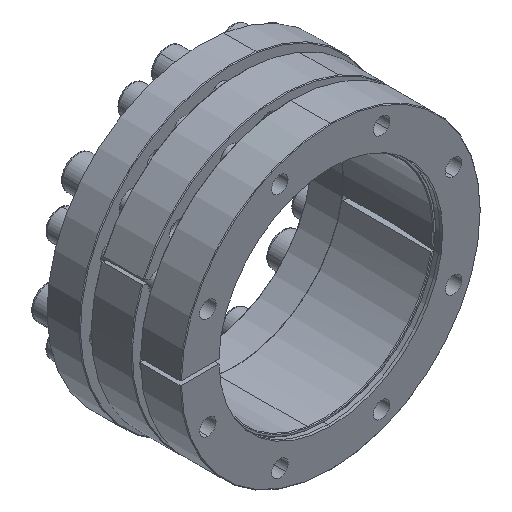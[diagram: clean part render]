
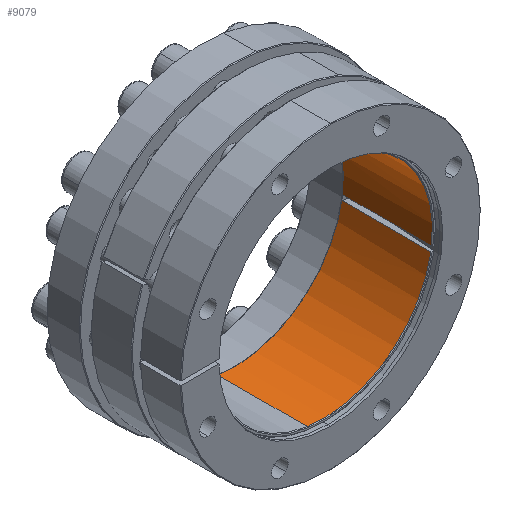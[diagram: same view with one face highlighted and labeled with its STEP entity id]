
A CAD part, isometric view. The second image highlights one B-rep face of the part: STEP entity #9079.
In plain terms, the highlighted cylindrical face has radius 80 mm (diameter 160 mm), a partial arc.
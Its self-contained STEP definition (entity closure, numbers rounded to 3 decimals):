
#144 = CARTESIAN_POINT ( 'NONE',  ( 0., 5.503, 0. ) ) ;
#605 = EDGE_CURVE ( 'NONE', #8285, #2930, #20801, .T. ) ;
#1186 = ORIENTED_EDGE ( 'NONE', *, *, #22672, .F. ) ;
#1310 = DIRECTION ( 'NONE',  ( 0.148, 0., 0.989 ) ) ;
#1899 = ORIENTED_EDGE ( 'NONE', *, *, #15524, .T. ) ;
#1987 = VERTEX_POINT ( 'NONE', #17245 ) ;
#2238 = DIRECTION ( 'NONE',  ( 0.148, 0., 0.989 ) ) ;
#2494 = LINE ( 'NONE', #26358, #18696 ) ;
#2620 = DIRECTION ( 'NONE',  ( 0., -1., 0. ) ) ;
#2930 = VERTEX_POINT ( 'NONE', #8291 ) ;
#3080 = AXIS2_PLACEMENT_3D ( 'NONE', #26692, #13955, #1310 ) ;
#3229 = ORIENTED_EDGE ( 'NONE', *, *, #11173, .T. ) ;
#4216 = DIRECTION ( 'NONE',  ( -0.148, 0., -0.989 ) ) ;
#4299 = ORIENTED_EDGE ( 'NONE', *, *, #6322, .T. ) ;
#5131 = CARTESIAN_POINT ( 'NONE',  ( 0., 70.503, 0. ) ) ;
#6322 = EDGE_CURVE ( 'NONE', #22903, #8546, #2494, .T. ) ;
#6748 = EDGE_CURVE ( 'NONE', #8546, #1987, #15047, .T. ) ;
#7242 = DIRECTION ( 'NONE',  ( 0.148, 0., 0.989 ) ) ;
#7535 = ORIENTED_EDGE ( 'NONE', *, *, #6748, .T. ) ;
#7960 = VERTEX_POINT ( 'NONE', #8156 ) ;
#8156 = CARTESIAN_POINT ( 'NONE',  ( 78.844, 70.503, -13.553 ) ) ;
#8285 = VERTEX_POINT ( 'NONE', #24273 ) ;
#8291 = CARTESIAN_POINT ( 'NONE',  ( -11.825, 5.503, -79.121 ) ) ;
#8546 = VERTEX_POINT ( 'NONE', #19059 ) ;
#8856 = VECTOR ( 'NONE', #25746, 1000. ) ;
#9079 = ADVANCED_FACE ( 'NONE', ( #22536 ), #14905, .F. ) ;
#9711 = EDGE_CURVE ( 'NONE', #14993, #7960, #25083, .T. ) ;
#9844 = CARTESIAN_POINT ( 'NONE',  ( -11.825, 5.003, -79.121 ) ) ;
#9968 = AXIS2_PLACEMENT_3D ( 'NONE', #10692, #25504, #12787 ) ;
#10062 = LINE ( 'NONE', #15310, #21346 ) ;
#10160 = AXIS2_PLACEMENT_3D ( 'NONE', #16882, #23182, #4216 ) ;
#10355 = ORIENTED_EDGE ( 'NONE', *, *, #18923, .F. ) ;
#10692 = CARTESIAN_POINT ( 'NONE',  ( 0., 71.003, 0. ) ) ;
#11173 = EDGE_CURVE ( 'NONE', #2930, #14993, #26190, .T. ) ;
#11811 = DIRECTION ( 'NONE',  ( 0., -1., 0. ) ) ;
#12787 = DIRECTION ( 'NONE',  ( -0.148, 0., -0.989 ) ) ;
#13256 = EDGE_LOOP ( 'NONE', ( #1186, #10355, #24986, #3229, #24563, #1899, #4299, #7535 ) ) ;
#13955 = DIRECTION ( 'NONE',  ( 0., -1., 0. ) ) ;
#14901 = DIRECTION ( 'NONE',  ( 0., -1., 0. ) ) ;
#14905 = CYLINDRICAL_SURFACE ( 'NONE', #10160, 80. ) ;
#14993 = VERTEX_POINT ( 'NONE', #26688 ) ;
#15047 = CIRCLE ( 'NONE', #3080, 80. ) ;
#15164 = VECTOR ( 'NONE', #20488, 1000. ) ;
#15310 = CARTESIAN_POINT ( 'NONE',  ( 11.825, 5.003, 79.121 ) ) ;
#15524 = EDGE_CURVE ( 'NONE', #7960, #22903, #20094, .T. ) ;
#16882 = CARTESIAN_POINT ( 'NONE',  ( 0., 5.003, 0. ) ) ;
#17245 = CARTESIAN_POINT ( 'NONE',  ( 11.825, 5.503, 79.121 ) ) ;
#18152 = VERTEX_POINT ( 'NONE', #20033 ) ;
#18696 = VECTOR ( 'NONE', #11811, 1000. ) ;
#18923 = EDGE_CURVE ( 'NONE', #8285, #18152, #21248, .T. ) ;
#19059 = CARTESIAN_POINT ( 'NONE',  ( 79.361, 5.503, -10.091 ) ) ;
#19935 = DIRECTION ( 'NONE',  ( 0., -1., 0. ) ) ;
#20033 = CARTESIAN_POINT ( 'NONE',  ( 11.825, 71.003, 79.121 ) ) ;
#20094 = CIRCLE ( 'NONE', #20429, 80. ) ;
#20429 = AXIS2_PLACEMENT_3D ( 'NONE', #5131, #19935, #7242 ) ;
#20488 = DIRECTION ( 'NONE',  ( 0., -1., 0. ) ) ;
#20801 = LINE ( 'NONE', #9844, #15164 ) ;
#21248 = CIRCLE ( 'NONE', #9968, 80. ) ;
#21346 = VECTOR ( 'NONE', #2620, 1000. ) ;
#22536 = FACE_OUTER_BOUND ( 'NONE', #13256, .T. ) ;
#22672 = EDGE_CURVE ( 'NONE', #18152, #1987, #10062, .T. ) ;
#22903 = VERTEX_POINT ( 'NONE', #26516 ) ;
#23182 = DIRECTION ( 'NONE',  ( 0., -1., 0. ) ) ;
#23786 = CARTESIAN_POINT ( 'NONE',  ( 78.844, 5.003, -13.553 ) ) ;
#24273 = CARTESIAN_POINT ( 'NONE',  ( -11.825, 71.003, -79.121 ) ) ;
#24563 = ORIENTED_EDGE ( 'NONE', *, *, #9711, .T. ) ;
#24986 = ORIENTED_EDGE ( 'NONE', *, *, #605, .T. ) ;
#25083 = LINE ( 'NONE', #23786, #8856 ) ;
#25504 = DIRECTION ( 'NONE',  ( 0., -1., 0. ) ) ;
#25746 = DIRECTION ( 'NONE',  ( 0., 1., 0. ) ) ;
#26190 = CIRCLE ( 'NONE', #26428, 80. ) ;
#26358 = CARTESIAN_POINT ( 'NONE',  ( 79.361, 5.003, -10.091 ) ) ;
#26428 = AXIS2_PLACEMENT_3D ( 'NONE', #144, #14901, #2238 ) ;
#26516 = CARTESIAN_POINT ( 'NONE',  ( 79.361, 70.503, -10.091 ) ) ;
#26688 = CARTESIAN_POINT ( 'NONE',  ( 78.844, 5.503, -13.553 ) ) ;
#26692 = CARTESIAN_POINT ( 'NONE',  ( 0., 5.503, 0. ) ) ;
